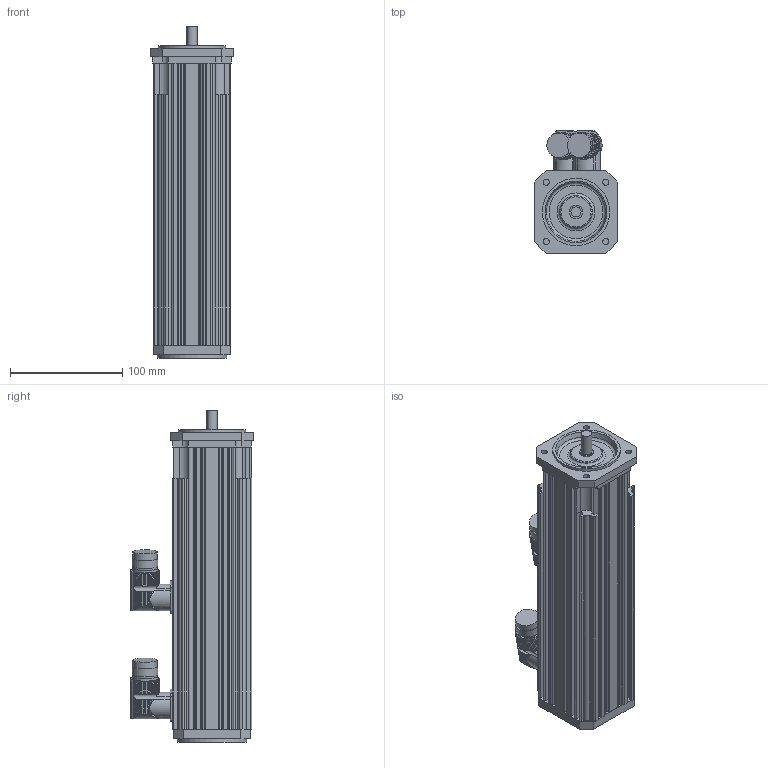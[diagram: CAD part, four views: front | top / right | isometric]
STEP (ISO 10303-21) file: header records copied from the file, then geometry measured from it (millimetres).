
FILE_DESCRIPTION(/* description */ (''),/* implementation_level */ '2;1');
FILE_NAME(/* name */ 'KSA248_MC_Ix',/* time_stamp */ '2009-02-26T13:04:27+01:00',/* author */ (''),/* organization */ (''),/* preprocessor_version */ 'ST-DEVELOPER v8',/* originating_system */ 'UNIGRAPHICS SOLUTIONS - UNIGRAPHICS 18.0',/* authorisation */ '');
FILE_SCHEMA (('AUTOMOTIVE_DESIGN { 1 2 10303 214 0 1 1 1 }'));
Length unit declared in the file: millimetre
Products named in the file (4): Lagersch2AS_0; Winkelflanschdose_0; Lagersch2BS_0; KSA244_MC_Ix_0
Assembly tree (4 placements, depth 2):
  KSA244_MC_Ix_0
    Lagersch2BS_0
    Winkelflanschdose_0  x2
    Lagersch2AS_0
Bounding box: 74 x 109.69 x 296 mm (x, y, z)
Volume: 493800.3 mm3; surface area: 194797.6 mm2
Topology: 5 solids, 5 shells, 640 faces, 1787 edges, 1166 vertices
Faces by surface type: cylinder 402, plane 185, torus 16, bspline 16, sphere 16, cone 5
Full cylindrical faces by diameter (mm): 5.5 x4, 9 x1, 12 x1, 16 x2, 20 x2, 21 x2, 21.5 x2, 23 x4, 60 x2, 61 x2, 62 x1
Entity records: 16144 total; most frequent: CARTESIAN_POINT 3740, ORIENTED_EDGE 2534, DIRECTION 2486, EDGE_CURVE 1267, AXIS2_PLACEMENT_3D 938, VERTEX_POINT 844, LINE 610, VECTOR 610
